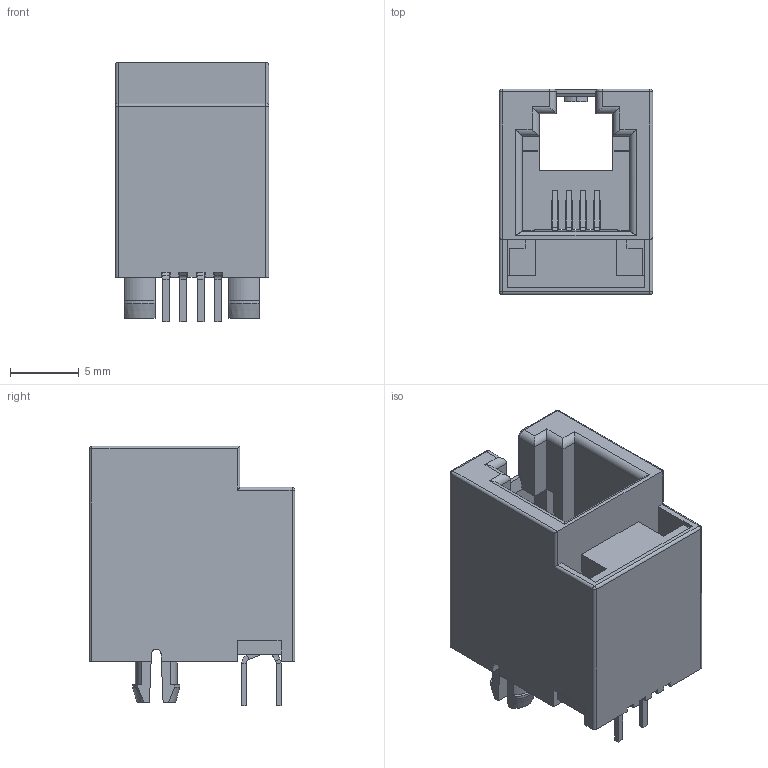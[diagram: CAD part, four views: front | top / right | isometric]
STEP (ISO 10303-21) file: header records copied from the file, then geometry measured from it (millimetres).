
FILE_DESCRIPTION (( 'STEP AP203' ), '1' );
FILE_NAME ('J268030011.STEP', '2019-07-26T03:31:53', ( '' ), ( '' ), 'SwSTEP 2.0', 'SolidWorks 2013', '' );
FILE_SCHEMA (( 'CONFIG_CONTROL_DESIGN' ));
Length unit declared in the file: millimetre
Products named in the file (1): J268030011
Bounding box: 11.2 x 15 x 18.95 mm (x, y, z)
Volume: 1367.7 mm3; surface area: 2006.5 mm2
Topology: 1 solids, 1 shells, 304 faces, 809 edges, 504 vertices
Faces by surface type: plane 240, cylinder 50, torus 6, cone 4, sphere 4
Entity records: 9322 total; most frequent: CARTESIAN_POINT 1746, ORIENTED_EDGE 1610, DIRECTION 1465, EDGE_CURVE 805, VECTOR 691, LINE 691, VERTEX_POINT 504, AXIS2_PLACEMENT_3D 387
